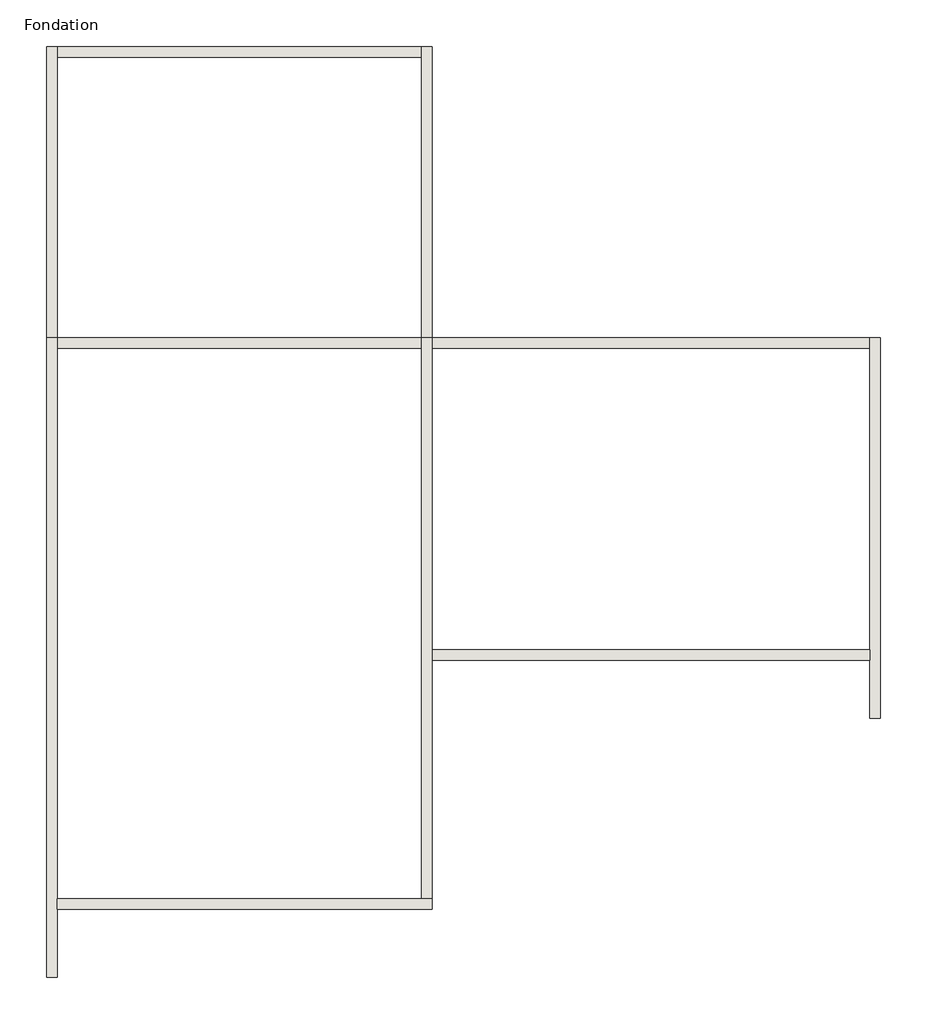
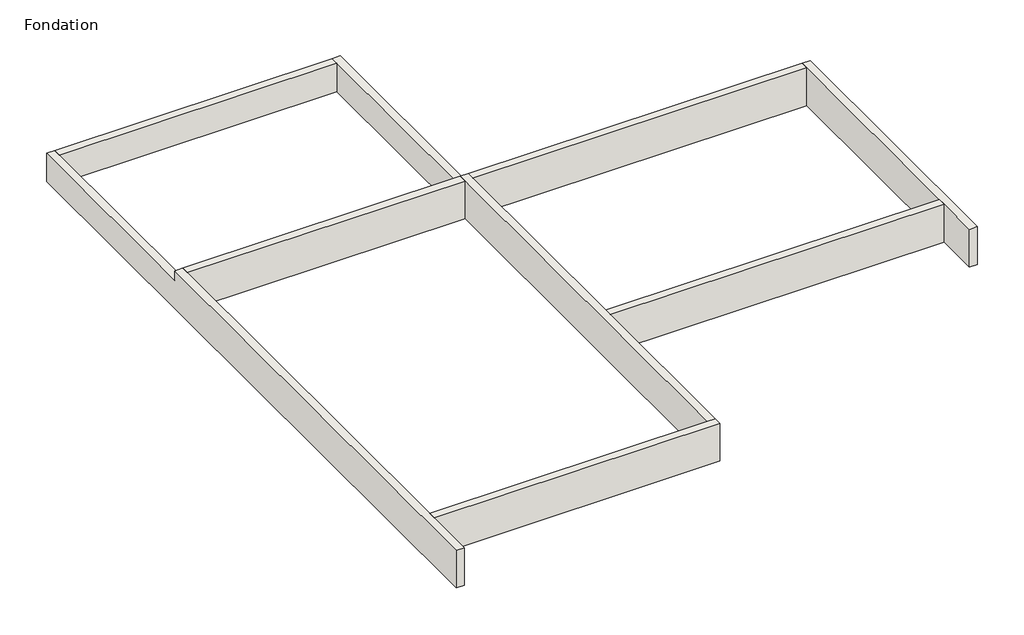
# One storey: 7 walls.
"""IFC4 building model written with IfcOpenShell, lengths in millimetres."""

from ifc_helpers import new_model, si_unit, frame, origin, place, context, project, spatial, polyline, outline, extrude, faceted_brep, element, save

model = new_model("IFC4")

# Units and contexts
model_context = context("Model", 3, world=origin())
ifc_project = project(units=[si_unit("LENGTHUNIT", "METRE", prefix="MILLI")], contexts=[model_context])

# Site, building, storey
site = spatial("IfcSite", under=ifc_project)
building = spatial("IfcBuilding", under=site)
storey = spatial("IfcBuildingStorey", under=building, Name="Fondation", Elevation=-1000.0)

# Walls
placement = place(None, origin())
element("IfcWall", 1, ObjectType="Fondation Béton", at=placement, inside=storey, context=model_context, shape_type="Brep", body=[
    faceted_brep([(-7836.697342, 7834.9574199, -1000.0), (-7836.697342, -9912.1038978, -1000.0), (-7836.697342, -9912.1038978, 0.0), (-7836.697342, 2284.9574199, 0.0), (-7836.697342, 2284.9574199, -250.0), (-7836.697342, 7834.9574199, -250.0), (-7636.697342, -9912.1038978, -1000.0), (-7636.697342, -8615.0425801, -1000.0), (-7636.697342, -8415.0425801, -1000.0), (-7636.697342, 2084.9574199, -1000.0), (-7636.697342, 2284.9574199, -1000.0), (-7636.697342, 7634.9574199, -1000.0), (-7636.697342, 7834.9574199, -1000.0), (-7636.697342, 7834.9574199, -250.0), (-7636.697342, 7634.9574199, -250.0), (-7636.697342, 2284.9574199, -250.0), (-7636.697342, 2284.9574199, 0.0), (-7636.697342, 2084.9574199, 0.0), (-7636.697342, -8415.0425801, 0.0), (-7636.697342, -8615.0425801, 0.0), (-7636.697342, -9912.1038978, 0.0)], [[[0, 1, 2, 3, 4, 5]], [[6, 7, 8, 9, 10, 11, 12, 13, 14, 15, 16, 17, 18, 19, 20]], [[1, 0, 12, 11, 10, 9, 8, 7, 6]], [[2, 1, 6, 20]], [[2, 20, 19, 18, 17, 16, 3]], [[12, 0, 5, 13]], [[4, 15, 14, 13, 5]], [[15, 4, 3, 16]]]),
])
element("IfcWall", 2, ObjectType="Fondation Béton", at=placement, inside=storey, context=model_context, shape_type="Brep", body=[
    faceted_brep([(-7636.697342, -8615.0425801, -1000.0), (-486.697342, -8615.0425801, -1000.0), (-486.697342, -8615.0425801, 0.0), (-7636.697342, -8615.0425801, 0.0), (-7636.697342, -8415.0425801, -1000.0), (-7636.697342, -8415.0425801, -360.0), (-7636.697342, -8415.0425801, 0.0), (-686.697342, -8415.0425801, 0.0), (-486.697342, -8415.0425801, 0.0), (-486.697342, -8415.0425801, -1000.0), (-686.697342, -8415.0425801, -1000.0)], [[[0, 1, 2, 3]], [[4, 5, 6, 7, 8, 9, 10]], [[1, 0, 4, 10, 9]], [[3, 2, 8, 7, 6]], [[2, 1, 9, 8]], [[0, 3, 6, 5, 4]]]),
])
element("IfcWall", 3, ObjectType="Fondation Béton", at=placement, inside=storey, context=model_context, shape_type="Brep", body=[
    faceted_brep([(-486.697342, -8415.0425801, -1000.0), (-486.697342, -3865.0425801, -1000.0), (-486.697342, -3665.0425801, -1000.0), (-486.697342, 2084.9574199, -1000.0), (-486.697342, 2284.9574199, -1000.0), (-486.697342, 7834.9574199, -1000.0), (-486.697342, 7834.9574199, -250.0), (-486.697342, 2284.9574199, -250.0), (-486.697342, 2284.9574199, 0.0), (-486.697342, 2084.9574199, 0.0), (-486.697342, -3665.0425801, 0.0), (-486.697342, -3865.0425801, 0.0), (-486.697342, -8415.0425801, 0.0), (-686.697342, 7834.9574199, -1000.0), (-686.697342, 7634.9574199, -1000.0), (-686.697342, 2284.9574199, -1000.0), (-686.697342, 2084.9574199, -1000.0), (-686.697342, -8415.0425801, -1000.0), (-686.697342, -8415.0425801, -360.0), (-686.697342, -8415.0425801, 0.0), (-686.697342, 2084.9574199, 0.0), (-686.697342, 2284.9574199, 0.0), (-686.697342, 2284.9574199, -250.0), (-686.697342, 7634.9574199, -250.0), (-686.697342, 7834.9574199, -250.0)], [[[0, 1, 2, 3, 4, 5, 6, 7, 8, 9, 10, 11, 12]], [[13, 14, 15, 16, 17, 18, 19, 20, 21, 22, 23, 24]], [[5, 4, 3, 2, 1, 0, 17, 16, 15, 14, 13]], [[19, 12, 11, 10, 9, 8, 21, 20]], [[17, 0, 12, 19, 18]], [[5, 13, 24, 6]], [[22, 7, 6, 24, 23]], [[7, 22, 21, 8]]]),
])
element("IfcWall", 4, ObjectType="Fondation Béton", at=placement, inside=storey, context=model_context, shape_type="Brep", body=[
    faceted_brep([(-486.697342, -3865.0425801, -1000.0), (7863.302658, -3865.0425801, -1000.0), (7863.302658, -3865.0425801, 0.0), (-486.697342, -3865.0425801, 0.0), (-486.697342, -3665.0425801, -1000.0), (-486.697342, -3665.0425801, -360.0), (-486.697342, -3665.0425801, 0.0), (7863.302658, -3665.0425801, 0.0), (7863.302658, -3665.0425801, -360.0), (7863.302658, -3665.0425801, -1000.0)], [[[0, 1, 2, 3]], [[4, 5, 6, 7, 8, 9]], [[1, 0, 4, 9]], [[3, 2, 7, 6]], [[0, 3, 6, 5, 4]], [[2, 1, 9, 8, 7]]]),
])
element("IfcWall", 5, ObjectType="Fondation Béton", at=placement, inside=storey, context=model_context, shape_type="Brep", body=[
    faceted_brep([(8063.302658, -4967.1038978, -1000.0), (8063.302658, 2284.9574199, -1000.0), (8063.302658, 2284.9574199, 0.0), (8063.302658, -4967.1038978, 0.0), (7863.302658, -4967.1038978, -1000.0), (7863.302658, -4967.1038978, 0.0), (7863.302658, -3865.0425801, 0.0), (7863.302658, -3665.0425801, 0.0), (7863.302658, 2084.9574199, 0.0), (7863.302658, 2284.9574199, 0.0), (7863.302658, 2284.9574199, -1000.0), (7863.302658, 2084.9574199, -1000.0), (7863.302658, -3665.0425801, -1000.0), (7863.302658, -3865.0425801, -1000.0)], [[[0, 1, 2, 3]], [[4, 5, 6, 7, 8, 9, 10, 11, 12, 13]], [[1, 0, 4, 13, 12, 11, 10]], [[3, 2, 9, 8, 7, 6, 5]], [[0, 3, 5, 4]], [[2, 1, 10, 9]]]),
])
element("IfcWall", 6, ObjectType="Fondation Béton", at=placement, inside=storey, context=model_context, shape_type="Brep", body=[
    faceted_brep([(7863.302658, 2284.9574199, 0.0), (7863.302658, 2284.9574199, -1000.0), (-486.697342, 2284.9574199, -1000.0), (-486.697342, 2284.9574199, -250.0), (-486.697342, 2284.9574199, 0.0), (7863.302658, 2084.9574199, -1000.0), (7863.302658, 2084.9574199, -360.0), (7863.302658, 2084.9574199, 0.0), (-486.697342, 2084.9574199, 0.0), (-486.697342, 2084.9574199, -360.0), (-486.697342, 2084.9574199, -1000.0)], [[[0, 1, 2, 3, 4]], [[5, 6, 7, 8, 9, 10]], [[1, 5, 10, 2]], [[7, 0, 4, 8]], [[1, 0, 7, 6, 5]], [[4, 3, 2, 10, 9, 8]]]),
    faceted_brep([(-7636.697342, 2284.9574199, -1000.0), (-7636.697342, 2284.9574199, -250.0), (-7636.697342, 2284.9574199, 0.0), (-686.697342, 2284.9574199, 0.0), (-686.697342, 2284.9574199, -250.0), (-686.697342, 2284.9574199, -1000.0), (-7636.697342, 2084.9574199, 0.0), (-7636.697342, 2084.9574199, -360.0), (-7636.697342, 2084.9574199, -1000.0), (-686.697342, 2084.9574199, -1000.0), (-686.697342, 2084.9574199, -360.0), (-686.697342, 2084.9574199, 0.0)], [[[0, 1, 2, 3, 4, 5]], [[6, 7, 8, 9, 10, 11]], [[8, 0, 5, 9]], [[2, 6, 11, 3]], [[2, 1, 0, 8, 7, 6]], [[5, 4, 3, 11, 10, 9]]]),
])
element("IfcWall", 7, ObjectType="Fondation Béton", at=placement, inside=storey, context=model_context, shape_type="SweptSolid", body=[
    extrude(outline(polyline([(-686.697342, 7634.9574199), (-7636.697342, 7634.9574199), (-7636.697342, 7834.9574199), (-686.697342, 7834.9574199), (-686.697342, 7634.9574199)])), frame((0.0, 0.0, -1000.0), z_axis=(0.0, 0.0, 1.0), x_axis=(1.0, 0.0, 0.0)), (0.0, 0.0, 1.0), 750.0),
])

save(model, "model.ifc")
